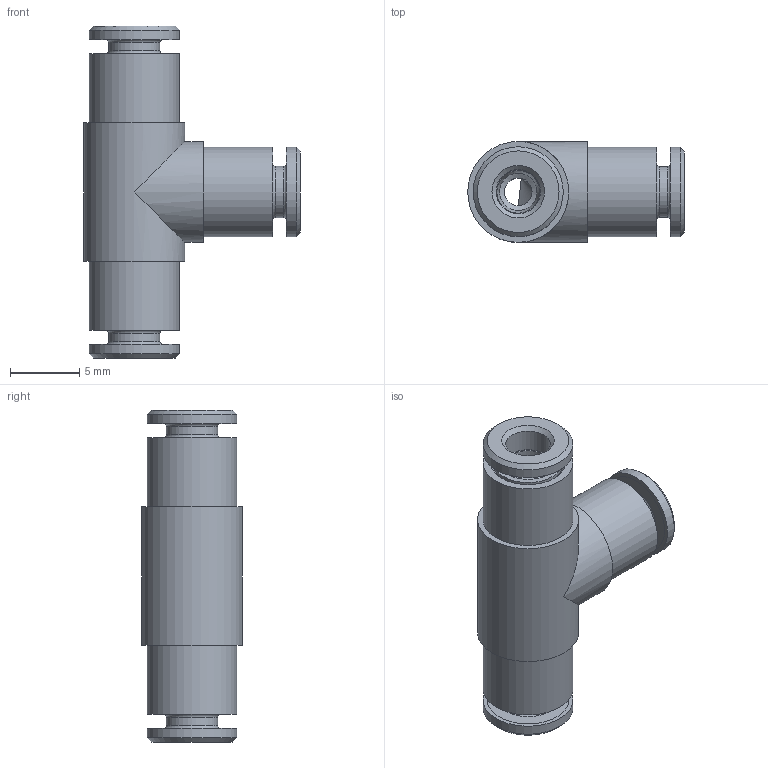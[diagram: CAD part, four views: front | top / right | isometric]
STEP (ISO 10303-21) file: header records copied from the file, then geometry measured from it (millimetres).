
FILE_DESCRIPTION(('Bauteilbeschreibung','HiCAD-Model','HiCAD-STEP-TRANSLATION','Bauteilbeschreibung'),'2;1');
FILE_NAME('B:/ABGLEICH/ZEICHNUNGEN/STEP FÜR INTERNET/STEP/200500_IPSO_05_3.STP','2011-07-21T11:01:25+00:00',('Konstrukteur'),('Konstrukteur Firma GmbH'),' HiCAD neXt 2008, Step 3.1.1401.2J ','HiCAD neXt 2008','confidential');
FILE_SCHEMA(('AUTOMOTIVE_DESIGN { 1 2 10303 214 0 1 1 1 }'));
Length unit declared in the file: millimetre
Products named in the file (5): A00500_IPSO_05_3; DR3; DR30; DR31; R200500_N
Assembly tree (4 placements, depth 2):
  A00500_IPSO_05_3
    DR3
    DR30
    DR31
    R200500_N
Bounding box: 15.65 x 7.3 x 24 mm (x, y, z)
Volume: 695.5 mm3; surface area: 1704.2 mm2
Topology: 4 solids, 4 shells, 106 faces, 191 edges, 113 vertices
Faces by surface type: cylinder 37, plane 30, cone 27, torus 12
Full cylindrical faces by diameter (mm): 2 x2, 3.1 x6, 3.2 x3, 3.7 x6, 4.9 x3, 5 x6, 5.5 x3, 6.5 x6, 7.3 x2
Entity records: 2853 total; most frequent: DIRECTION 446, CARTESIAN_POINT 332, AXIS2_PLACEMENT_3D 223, ORIENTED_EDGE 218, EDGE_LOOP 214, COLOUR_RGB 113, PRESENTATION_STYLE_ASSIGNMENT 113, CURVE_STYLE 109
